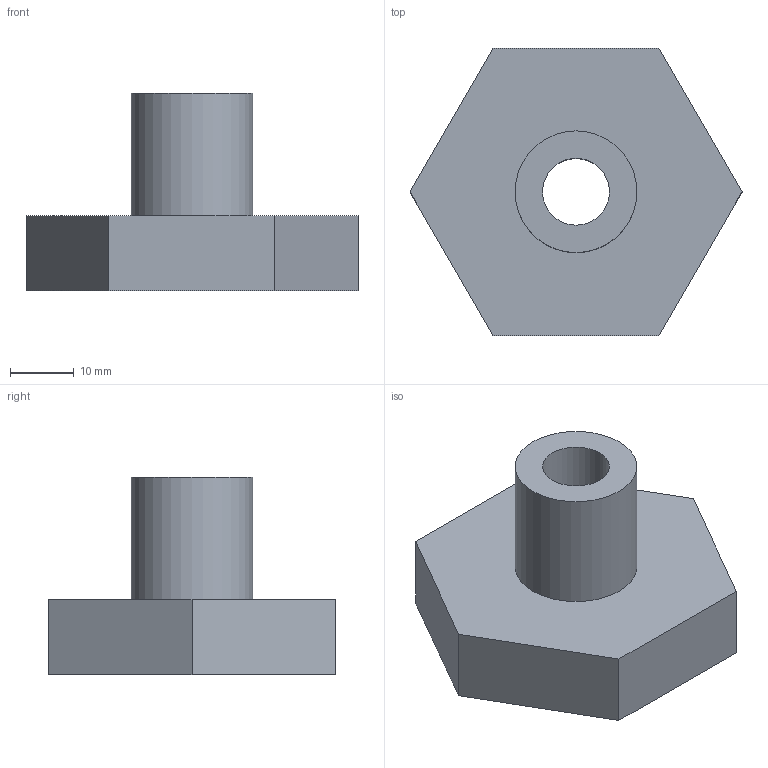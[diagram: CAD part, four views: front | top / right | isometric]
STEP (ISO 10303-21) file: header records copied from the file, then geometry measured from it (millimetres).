
FILE_DESCRIPTION(('Mechanical CAD reference from nasji.com'),'2;1');
FILE_NAME('NASJI.step','',(''),(''),'','NASJI distribution','');
FILE_SCHEMA(('AUTOMOTIVE_DESIGN { 1 0 10303 214 1 1 1 1 }'));
Length unit declared in the file: millimetre
Products named in the file (1): Open CASCADE STEP translator 7.8 184
Bounding box: 52.1 x 45.12 x 31 mm (x, y, z)
Volume: 23621 mm3; surface area: 7372 mm2
Topology: 1 solids, 1 shells, 11 faces, 24 edges, 16 vertices
Faces by surface type: plane 9, cylinder 2
Full cylindrical faces by diameter (mm): 10.5 x1, 19.1 x1
Entity records: 634 total; most frequent: CARTESIAN_POINT 112, DIRECTION 98, LINE 64, VECTOR 64, ORIENTED_EDGE 48, PCURVE 48, DEFINITIONAL_REPRESENTATION 48, EDGE_CURVE 24
